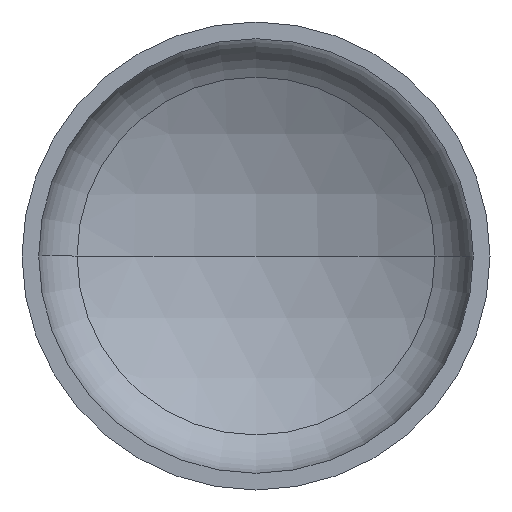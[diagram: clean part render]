
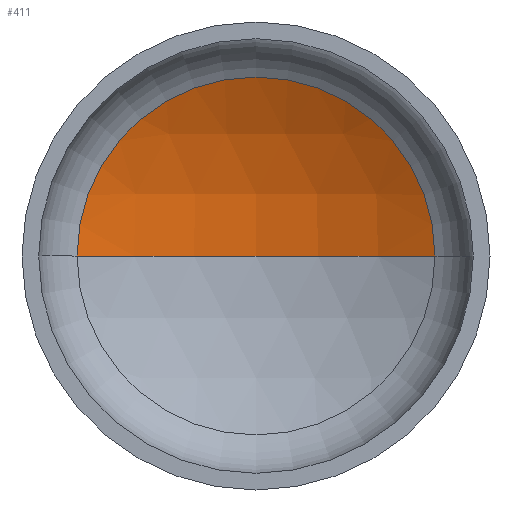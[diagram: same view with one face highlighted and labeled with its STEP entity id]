
A CAD part, front view. The second image highlights one B-rep face of the part: STEP entity #411.
In plain terms, the highlighted spherical face has radius 560 mm.
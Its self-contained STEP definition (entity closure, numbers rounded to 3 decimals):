
#4 = AXIS2_PLACEMENT_3D ( 'NONE', #216, #385, #244 ) ;
#5 = CARTESIAN_POINT ( 'NONE',  ( -267.556, 171.633, 0. ) ) ;
#12 = ORIENTED_EDGE ( 'NONE', *, *, #389, .F. ) ;
#24 = VERTEX_POINT ( 'NONE', #5 ) ;
#25 = AXIS2_PLACEMENT_3D ( 'NONE', #284, #116, #317 ) ;
#50 = CARTESIAN_POINT ( 'NONE',  ( 0., -320.316, 0. ) ) ;
#102 = CARTESIAN_POINT ( 'NONE',  ( 267.556, 171.633, 0. ) ) ;
#108 = VERTEX_POINT ( 'NONE', #119 ) ;
#116 = DIRECTION ( 'NONE',  ( 0., -1., 0. ) ) ;
#119 = CARTESIAN_POINT ( 'NONE',  ( 0., 239.684, 0. ) ) ;
#122 = DIRECTION ( 'NONE',  ( -1., 0., 0. ) ) ;
#127 = DIRECTION ( 'NONE',  ( -1., 0., 0. ) ) ;
#132 = ORIENTED_EDGE ( 'NONE', *, *, #348, .T. ) ;
#148 = VERTEX_POINT ( 'NONE', #102 ) ;
#154 = EDGE_LOOP ( 'NONE', ( #12, #258, #132 ) ) ;
#209 = CIRCLE ( 'NONE', #25, 267.556 ) ;
#216 = CARTESIAN_POINT ( 'NONE',  ( 0., -320.316, 0. ) ) ;
#244 = DIRECTION ( 'NONE',  ( 1., 0., 0. ) ) ;
#245 = CARTESIAN_POINT ( 'NONE',  ( 0., -320.316, 0. ) ) ;
#247 = CIRCLE ( 'NONE', #4, 560. ) ;
#258 = ORIENTED_EDGE ( 'NONE', *, *, #392, .T. ) ;
#284 = CARTESIAN_POINT ( 'NONE',  ( 0., 171.633, 0. ) ) ;
#291 = DIRECTION ( 'NONE',  ( 0., 0., -1. ) ) ;
#293 = DIRECTION ( 'NONE',  ( 0., 0., -1. ) ) ;
#294 = FACE_OUTER_BOUND ( 'NONE', #154, .T. ) ;
#310 = AXIS2_PLACEMENT_3D ( 'NONE', #50, #291, #122 ) ;
#312 = CIRCLE ( 'NONE', #310, 560. ) ;
#317 = DIRECTION ( 'NONE',  ( 1., 0., 0. ) ) ;
#340 = AXIS2_PLACEMENT_3D ( 'NONE', #245, #293, #127 ) ;
#348 = EDGE_CURVE ( 'NONE', #148, #24, #209, .T. ) ;
#365 = SPHERICAL_SURFACE ( 'NONE', #340, 560. ) ;
#385 = DIRECTION ( 'NONE',  ( 0., 0., 1. ) ) ;
#389 = EDGE_CURVE ( 'NONE', #108, #24, #247, .T. ) ;
#392 = EDGE_CURVE ( 'NONE', #108, #148, #312, .T. ) ;
#411 = ADVANCED_FACE ( 'NONE', ( #294 ), #365, .F. ) ;
